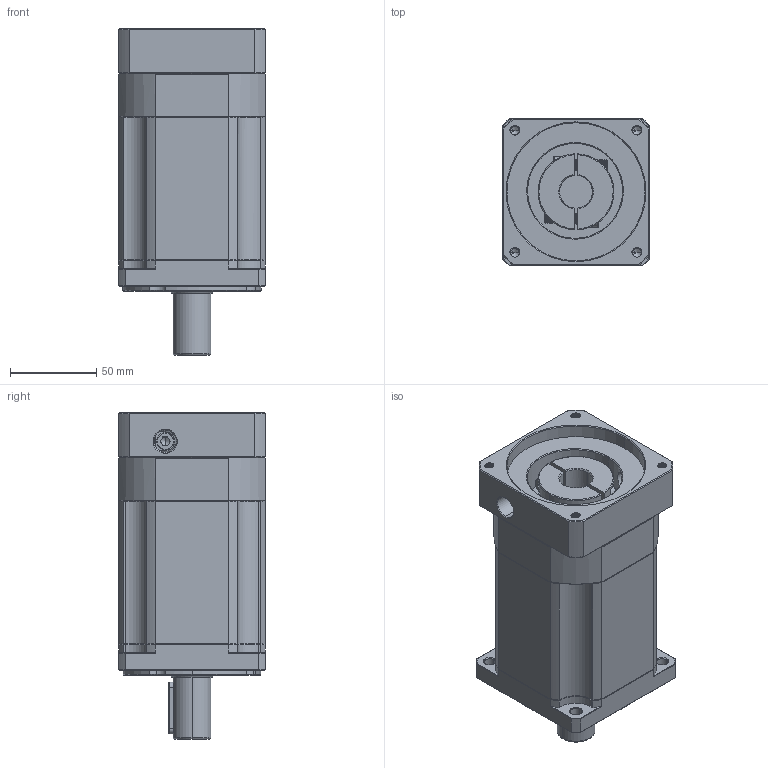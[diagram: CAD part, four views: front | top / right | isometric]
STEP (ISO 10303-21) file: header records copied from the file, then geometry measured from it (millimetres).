
FILE_DESCRIPTION (( 'STEP AP214' ), '1' );
FILE_NAME ('ZB90-D22-L3-19-80-100-M6.STEP', '2022-05-02T15:49:15', ( '' ), ( 'Microsoft' ), 'SwSTEP 2.0', 'SolidWorks 2016', '' );
FILE_SCHEMA (( 'AUTOMOTIVE_DESIGN' ));
Length unit declared in the file: millimetre
Products named in the file (1): ZB90-D22-L3-19-80-100-M6
Bounding box: 85 x 85 x 189 mm (x, y, z)
Volume: 904380.7 mm3; surface area: 101445.5 mm2
Topology: 4 solids, 5 shells, 1942 faces, 5067 edges, 3205 vertices
Faces by surface type: plane 886, cylinder 396, cone 334, bspline 299, torus 27
Entity records: 104732 total; most frequent: CARTESIAN_POINT 38433, ORIENTED_EDGE 10090, DIRECTION 8189, EDGE_CURVE 5045, VERTEX_POINT 3205, VECTOR 3101, LINE 3101, AXIS2_PLACEMENT_3D 2544
